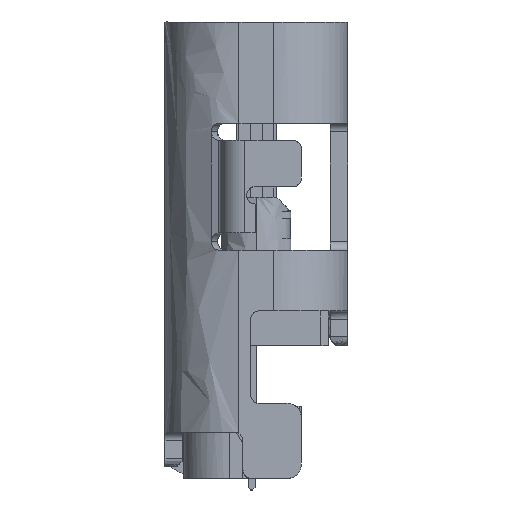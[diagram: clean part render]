
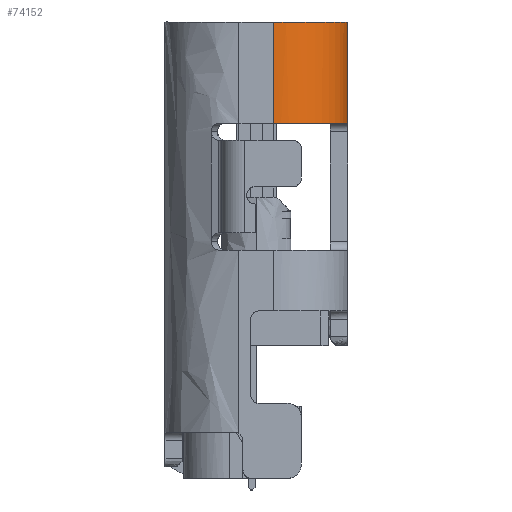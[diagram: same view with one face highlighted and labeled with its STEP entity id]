
A CAD part, front view. The second image highlights one B-rep face of the part: STEP entity #74152.
In plain terms, the highlighted free-form (B-spline) face has degree [1, 3] with [2, 4] control points.
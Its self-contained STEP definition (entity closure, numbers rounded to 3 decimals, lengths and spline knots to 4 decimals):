
#12223 = CARTESIAN_POINT ( 'NONE',  ( 1.3498, -4.47, 6.4 ) ) ;
#12613 = B_SPLINE_CURVE_WITH_KNOTS ( 'NONE', 1,
 ( #121735, #73816 ),
 .UNSPECIFIED., .F., .F.,
 ( 2, 2 ),
 ( 0., 1. ),
 .UNSPECIFIED. ) ;
#15996 = B_SPLINE_CURVE_WITH_KNOTS ( 'NONE', 1,
 ( #72832, #75983 ),
 .UNSPECIFIED., .F., .F.,
 ( 2, 2 ),
 ( 0., 1. ),
 .UNSPECIFIED. ) ;
#21979 = VERTEX_POINT ( 'NONE', #107192 ) ;
#33086 = VERTEX_POINT ( 'NONE', #114108 ) ;
#34404 = B_SPLINE_CURVE_WITH_KNOTS ( 'NONE', 3,
 ( #86093, #49326, #50119, #145985, #98846, #148386, #109247, #134780, #51682, #88442 ),
 .UNSPECIFIED., .F., .F.,
 ( 4, 2, 2, 2, 4 ),
 ( 0., 0.3927, 0.7854, 1.1781, 1.5708 ),
 .UNSPECIFIED. ) ;
#36058 = EDGE_LOOP ( 'NONE', ( #41200, #44992, #120968, #150591 ) ) ;
#40165 = CARTESIAN_POINT ( 'NONE',  ( 1.88, -3.9398, 6.4 ) ) ;
#41200 = ORIENTED_EDGE ( 'NONE', *, *, #58405, .F. ) ;
#44992 = ORIENTED_EDGE ( 'NONE', *, *, #124982, .F. ) ;
#47214 = CARTESIAN_POINT ( 'NONE',  ( 0.935, -4.4367, 6.4 ) ) ;
#49326 = CARTESIAN_POINT ( 'NONE',  ( 1.8802, -3.3576, 4.65 ) ) ;
#49541 = CARTESIAN_POINT ( 'NONE',  ( 1.8802, -3.3576, 6.4 ) ) ;
#50119 = CARTESIAN_POINT ( 'NONE',  ( 1.8467, -3.525, 4.65 ) ) ;
#51682 = CARTESIAN_POINT ( 'NONE',  ( 0.7676, -4.4702, 4.65 ) ) ;
#52681 = CARTESIAN_POINT ( 'NONE',  ( 1.88, -3.19, 6.4 ) ) ;
#56408 = B_SPLINE_CURVE_WITH_KNOTS ( 'NONE', 3,
 ( #131862, #156610, #47214, #71979, #145413, #120690, #96686, #133420, #49541, #52681 ),
 .UNSPECIFIED., .F., .F.,
 ( 4, 2, 2, 2, 4 ),
 ( 0., 0.3927, 0.7854, 1.1781, 1.5708 ),
 .UNSPECIFIED. ) ;
#57414 = CARTESIAN_POINT ( 'NONE',  ( 0.6, -4.47, 6.4 ) ) ;
#58405 = EDGE_CURVE ( 'NONE', #131023, #21979, #56408, .T. ) ;
#60992 = CARTESIAN_POINT ( 'NONE',  ( 1.3498, -4.47, 4.65 ) ) ;
#62168 = EDGE_CURVE ( 'NONE', #21979, #33086, #12613, .T. ) ;
#71979 = CARTESIAN_POINT ( 'NONE',  ( 1.2446, -4.3084, 6.4 ) ) ;
#72832 = CARTESIAN_POINT ( 'NONE',  ( 0.6, -4.47, 4.65 ) ) ;
#73441 =( BOUNDED_SURFACE ( )  B_SPLINE_SURFACE ( 1, 3, ( 
 ( #136009, #40165, #12223, #146412 ),
 ( #97676, #87281, #60992, #109673 ) ),
 .UNSPECIFIED., .F., .F., .F. ) 
 B_SPLINE_SURFACE_WITH_KNOTS ( ( 2, 2 ),
 ( 4, 4 ),
 ( 0.0192, 0.9808 ),
 ( 0., 1. ),
 .UNSPECIFIED. ) 
 GEOMETRIC_REPRESENTATION_ITEM ( )  RATIONAL_B_SPLINE_SURFACE ( (
 ( 1., 0.805, 0.805, 1.),
 ( 1., 0.805, 0.805, 1.) ) ) 
 REPRESENTATION_ITEM ( '' )  SURFACE ( )  );
#73816 = CARTESIAN_POINT ( 'NONE',  ( 1.88, -3.19, 4.65 ) ) ;
#74152 = ADVANCED_FACE ( 'NONE', ( #123243 ), #73441, .F. ) ;
#75983 = CARTESIAN_POINT ( 'NONE',  ( 0.6, -4.47, 6.4 ) ) ;
#86093 = CARTESIAN_POINT ( 'NONE',  ( 1.88, -3.19, 4.65 ) ) ;
#87281 = CARTESIAN_POINT ( 'NONE',  ( 1.88, -3.9398, 4.65 ) ) ;
#88442 = CARTESIAN_POINT ( 'NONE',  ( 0.6, -4.47, 4.65 ) ) ;
#96686 = CARTESIAN_POINT ( 'NONE',  ( 1.7184, -3.8346, 6.4 ) ) ;
#97676 = CARTESIAN_POINT ( 'NONE',  ( 1.88, -3.19, 4.65 ) ) ;
#98846 = CARTESIAN_POINT ( 'NONE',  ( 1.6236, -3.9766, 4.65 ) ) ;
#107192 = CARTESIAN_POINT ( 'NONE',  ( 1.88, -3.19, 6.4 ) ) ;
#109247 = CARTESIAN_POINT ( 'NONE',  ( 1.2446, -4.3084, 4.65 ) ) ;
#109673 = CARTESIAN_POINT ( 'NONE',  ( 0.6, -4.47, 4.65 ) ) ;
#114108 = CARTESIAN_POINT ( 'NONE',  ( 1.88, -3.19, 4.65 ) ) ;
#116325 = VERTEX_POINT ( 'NONE', #152997 ) ;
#120690 = CARTESIAN_POINT ( 'NONE',  ( 1.6236, -3.9766, 6.4 ) ) ;
#120968 = ORIENTED_EDGE ( 'NONE', *, *, #122803, .F. ) ;
#121735 = CARTESIAN_POINT ( 'NONE',  ( 1.88, -3.19, 6.4 ) ) ;
#122803 = EDGE_CURVE ( 'NONE', #33086, #116325, #34404, .T. ) ;
#123243 = FACE_OUTER_BOUND ( 'NONE', #36058, .T. ) ;
#124982 = EDGE_CURVE ( 'NONE', #116325, #131023, #15996, .T. ) ;
#131023 = VERTEX_POINT ( 'NONE', #57414 ) ;
#131862 = CARTESIAN_POINT ( 'NONE',  ( 0.6, -4.47, 6.4 ) ) ;
#133420 = CARTESIAN_POINT ( 'NONE',  ( 1.8467, -3.525, 6.4 ) ) ;
#134780 = CARTESIAN_POINT ( 'NONE',  ( 0.935, -4.4367, 4.65 ) ) ;
#136009 = CARTESIAN_POINT ( 'NONE',  ( 1.88, -3.19, 6.4 ) ) ;
#145413 = CARTESIAN_POINT ( 'NONE',  ( 1.3866, -4.2136, 6.4 ) ) ;
#145985 = CARTESIAN_POINT ( 'NONE',  ( 1.7184, -3.8346, 4.65 ) ) ;
#146412 = CARTESIAN_POINT ( 'NONE',  ( 0.6, -4.47, 6.4 ) ) ;
#148386 = CARTESIAN_POINT ( 'NONE',  ( 1.3866, -4.2136, 4.65 ) ) ;
#150591 = ORIENTED_EDGE ( 'NONE', *, *, #62168, .F. ) ;
#152997 = CARTESIAN_POINT ( 'NONE',  ( 0.6, -4.47, 4.65 ) ) ;
#156610 = CARTESIAN_POINT ( 'NONE',  ( 0.7676, -4.4702, 6.4 ) ) ;
